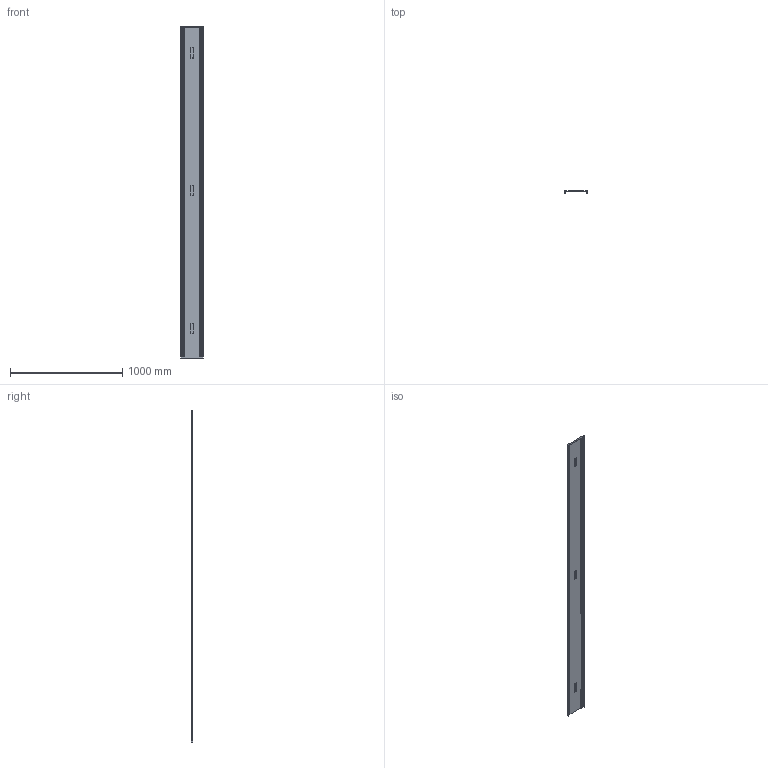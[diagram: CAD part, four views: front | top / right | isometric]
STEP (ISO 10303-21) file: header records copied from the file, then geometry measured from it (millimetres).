
FILE_DESCRIPTION (( 'STEP AP203' ), '1' );
FILE_NAME ('Tapa TERE 200.STEP', '2019-04-25T14:48:09', ( '' ), ( '' ), 'SwSTEP 2.0', 'SolidWorks 2018', '' );
FILE_SCHEMA (( 'CONFIG_CONTROL_DESIGN' ));
Length unit declared in the file: millimetre
Products named in the file (1): Tapa TERE 200
Bounding box: 202 x 15 x 2960 mm (x, y, z)
Surface area: 1379511.2 mm2 (no closed solid volume)
Topology: 0 solids, 8 shells, 649 faces, 1748 edges, 1136 vertices
Faces by surface type: plane 356, bspline 173, cylinder 96, torus 24
Entity records: 26625 total; most frequent: CARTESIAN_POINT 11270, ORIENTED_EDGE 3428, DIRECTION 2662, EDGE_CURVE 1748, VERTEX_POINT 1136, LINE 1092, VECTOR 1092, AXIS2_PLACEMENT_3D 785
